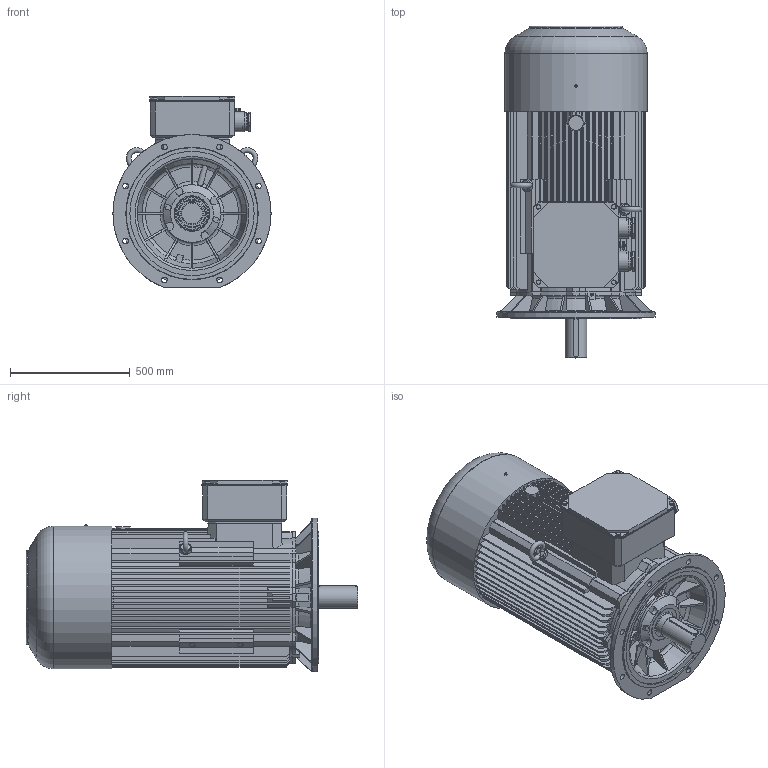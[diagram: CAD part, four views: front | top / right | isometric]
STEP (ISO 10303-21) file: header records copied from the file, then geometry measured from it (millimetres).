
FILE_DESCRIPTION(/* description */ ('Unknown'),/* implementation_level */ '2;1');
FILE_NAME(/* name */ '3SIEK315M8C_D',/* time_stamp */ '2021-04-12T13:50:33+02:00',/* author */ ('Unknown'),/* organization */ ('Unknown'),/* preprocessor_version */ 'ST-DEVELOPER v16.7',/* originating_system */ 'DEX',/* authorisation */ $);
FILE_SCHEMA (('AUTOMOTIVE_DESIGN {1 0 10303 214 3 1 1}'));
Length unit declared in the file: millimetre
Products named in the file (1): SIEK315M8C_D
Bounding box: 660 x 1385 x 799.5 mm (x, y, z)
Volume: 299488391.7 mm3; surface area: 6891579 mm2
Topology: 2 solids, 18 shells, 1301 faces, 3550 edges, 2338 vertices
Faces by surface type: plane 789, cylinder 266, cone 123, torus 107, bspline 16
Full cylindrical faces by diameter (mm): 1.6 x2, 5 x4, 10.106 x4, 12.894 x1, 13.835 x1, 16.63 x4, 19.978 x1, 24 x12, 26.234 x1, 26.969 x1, 50 x2, 55 x2, 57 x4, 65 x4, 70 x2, 71 x6, 72 x2, 72.752 x2, 76 x2, 85 x2, 89.999 x1, 95.181 x2, 99.4 x1, 100 x1, 111.399 x1, 112 x1, 119.4 x1, 119.999 x1, 131.399 x1, 132 x1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
Entity records: 44419 total; most frequent: CARTESIAN_POINT 12531, ORIENTED_EDGE 6676, DIRECTION 6396, EDGE_CURVE 3338, VERTEX_POINT 2268, AXIS2_PLACEMENT_3D 2237, LINE 1922, VECTOR 1922
